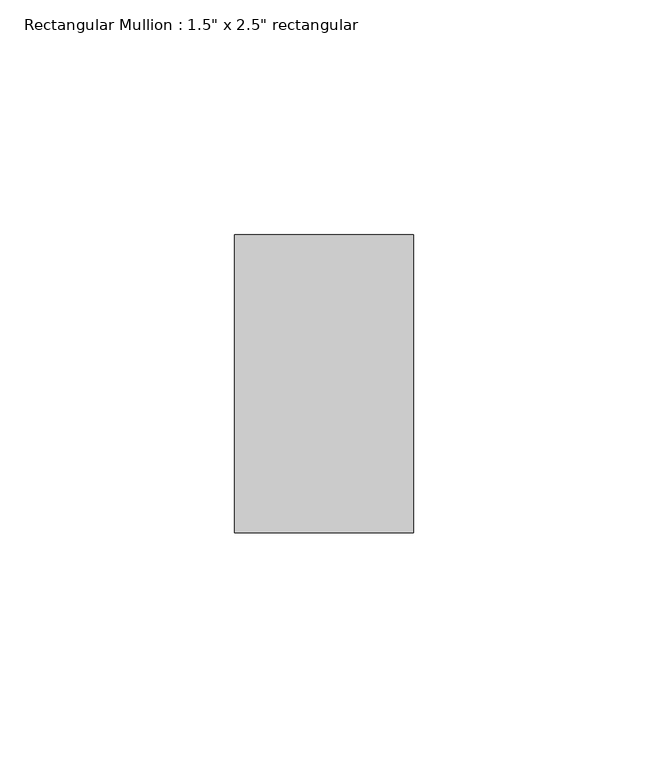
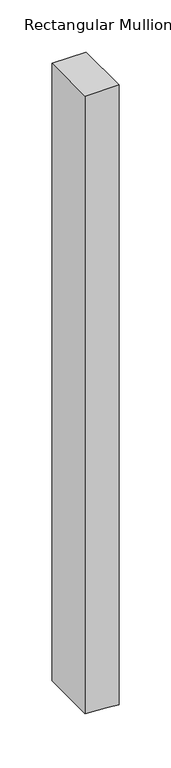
"""IFC4 building model written with IfcOpenShell, lengths in millimetres: member geometry."""

from ifc_helpers import new_model, si_unit, frame, origin, place, context, project, spatial, polyline, outline, extrude, source, transform, mapped, element, save


def member_ef795203(model_context):
    return source(origin(), model_context, "Body", "SweptSolid", [
        extrude(outline(polyline([(0.0, 19.05), (0.0, -19.05), (-724.6220912, -19.05), (-725.986946, 4.8788778), (-727.3631575, 19.05), (0.0, 19.05)])), frame((0.0, -31.75, 0.0), z_axis=(0.0, 1.0, 0.0), x_axis=(0.0, 0.0, 1.0)), (0.0, 0.0, 1.0), 63.5),
    ])


if __name__ == "__main__":
    model = new_model("IFC4")
    model_context = context("Model", 3, world=origin())
    ifc_project = project(units=[si_unit("LENGTHUNIT", "METRE", prefix="MILLI")], contexts=[model_context])
    site = spatial("IfcSite", under=ifc_project)
    building = spatial("IfcBuilding", under=site)
    placement = place(None, origin())
    member_shape = member_ef795203(model_context)
    element("IfcMember", 1, ObjectType="Rectangular Mullion : 1.5\" x 2.5\" rectangular", at=placement, inside=building, context=model_context, shape_type="MappedRepresentation", body=[
        mapped(member_shape, transform((0.0, 0.0, 0.0), x_axis=(1.0, 0.0, 0.0), y_axis=(0.0, 1.0, 0.0), z_axis=(0.0, 0.0, 1.0))),
    ])
    save(model, "model.ifc")
